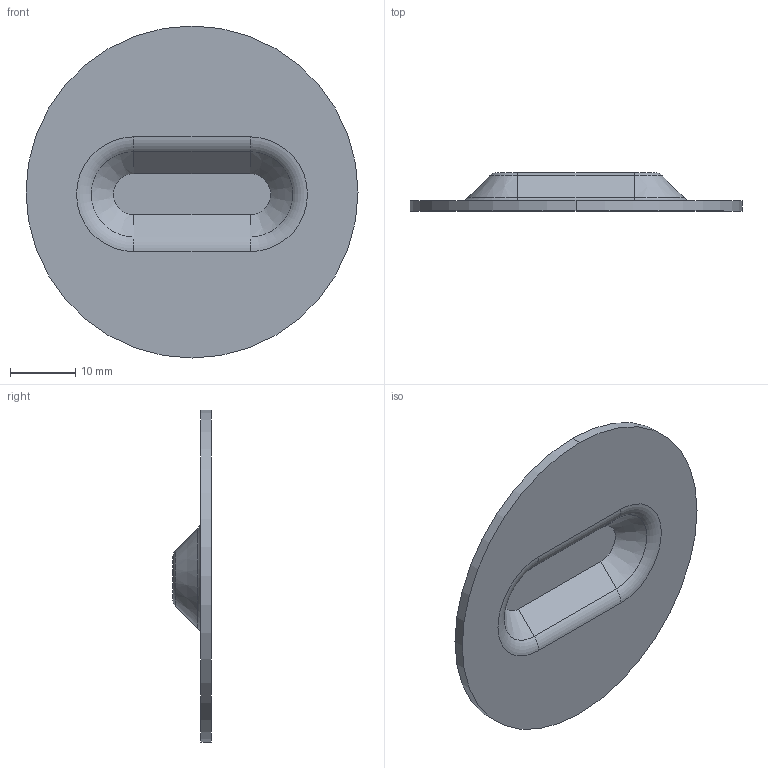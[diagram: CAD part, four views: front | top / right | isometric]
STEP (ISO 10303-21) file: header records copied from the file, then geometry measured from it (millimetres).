
FILE_DESCRIPTION (( 'STEP AP203' ), '1' );
FILE_NAME ('1166765-20.STEP', '2024-11-18T14:41:48', ( '' ), ( '' ), 'SwSTEP 2.0', 'SolidWorks 2024', '' );
FILE_SCHEMA (( 'CONFIG_CONTROL_DESIGN' ));
Length unit declared in the file: inch
Products named in the file (1): 1166765-20
Bounding box: 50.8 x 5.89 x 50.8 mm (x, y, z)
Volume: 3375.6 mm3; surface area: 4538.4 mm2
Topology: 1 solids, 1 shells, 26 faces, 54 edges, 32 vertices
Faces by surface type: cylinder 8, plane 8, torus 6, cone 4
Entity records: 771 total; most frequent: DIRECTION 138, CARTESIAN_POINT 113, ORIENTED_EDGE 108, AXIS2_PLACEMENT_3D 57, EDGE_CURVE 54, VERTEX_POINT 32, CIRCLE 30, EDGE_LOOP 28
